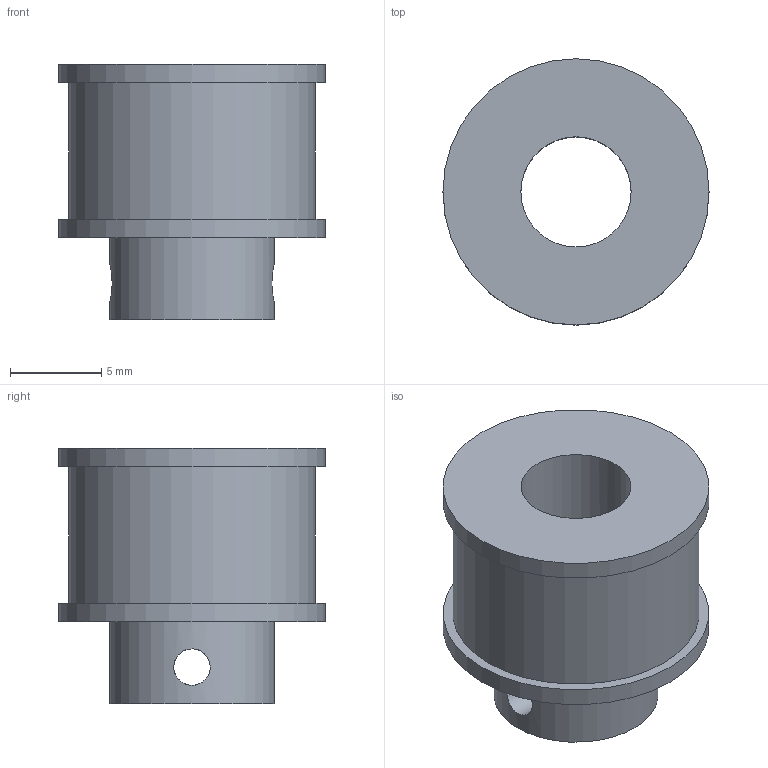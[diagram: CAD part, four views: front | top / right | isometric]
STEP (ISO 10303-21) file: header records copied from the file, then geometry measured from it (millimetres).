
FILE_DESCRIPTION(/* description */ ('Polley Z17_T2,5x6'),/* implementation_level */ '2;1');
FILE_NAME(/* name */ 'ITPTv2.01.00.32.stp',/* time_stamp */ '2025-02-12T11:21:27+01:00',/* author */ ('Rüdiger Widera'),/* organization */ (''),/* preprocessor_version */ 'ST-DEVELOPER v19.2',/* originating_system */ 'Autodesk Inventor 2024',/* authorisation */ '');
FILE_SCHEMA (('AUTOMOTIVE_DESIGN { 1 0 10303 214 3 1 1 }'));
Length unit declared in the file: millimetre
Products named in the file (1): ITPTv2.01.00.32
Bounding box: 14.6 x 14.6 x 14 mm (x, y, z)
Volume: 1287.6 mm3; surface area: 1134.7 mm2
Topology: 1 solids, 1 shells, 12 faces, 31 edges, 22 vertices
Faces by surface type: cylinder 7, plane 5
Full cylindrical faces by diameter (mm): 2 x2, 6.05 x1, 9 x1, 13.53 x1, 14.6 x2
Entity records: 548 total; most frequent: CARTESIAN_POINT 206, ORIENTED_EDGE 62, DIRECTION 55, EDGE_CURVE 31, AXIS2_PLACEMENT_3D 23, VERTEX_POINT 22, EDGE_LOOP 19, FACE_OUTER_BOUND 12
